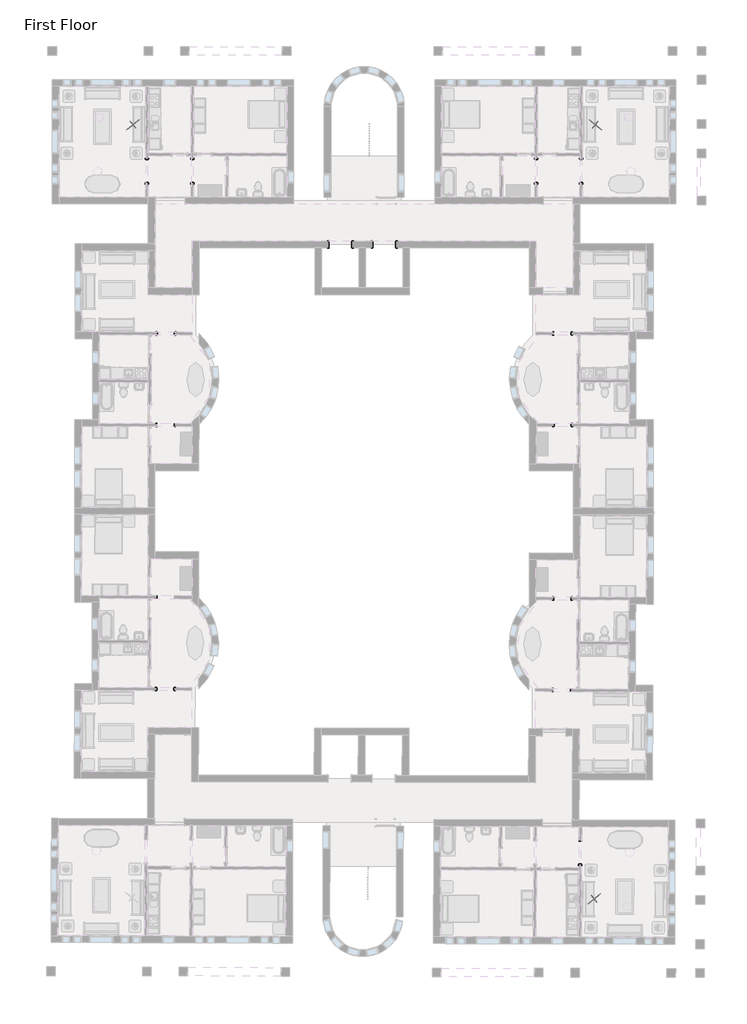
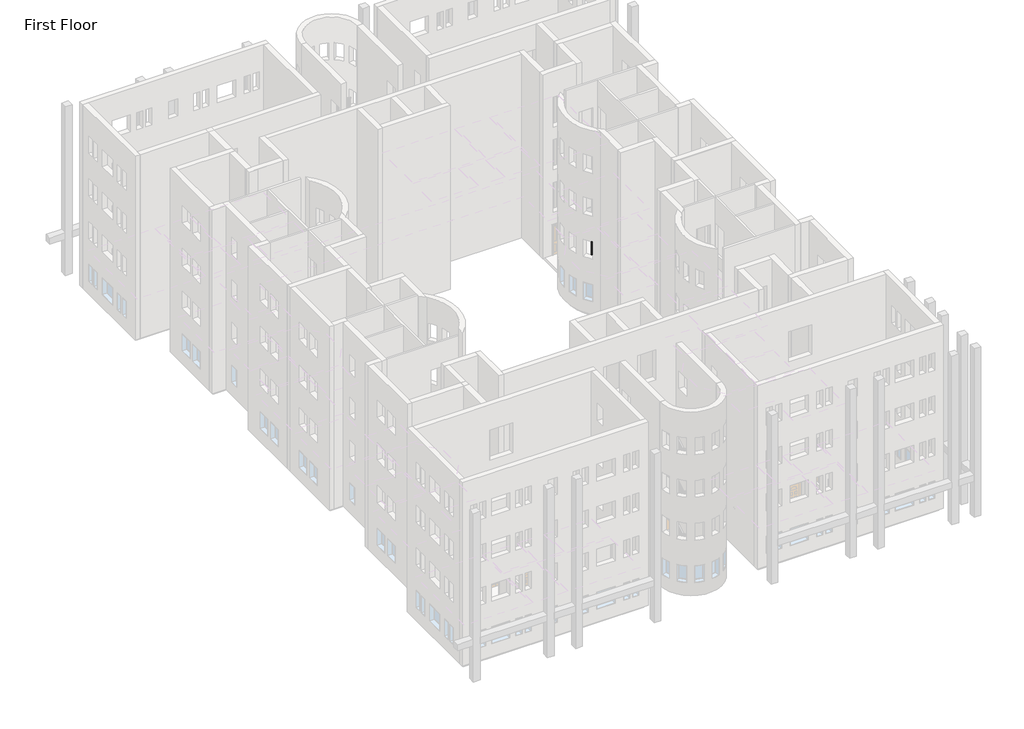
# One storey, part 23 of 23: 18 proxies.
"""IFC4 building model written with IfcOpenShell, lengths in millimetres."""

import ifcopenshell
import ifcopenshell.guid

model = None  # the IFC model being written
_history = None  # IfcOwnerHistory: only IFC2X3 demands one
_inside = {}  # id of a spatial element -> (the spatial element, [elements in it])
_under = {}  # id of a project, library or spatial element -> (it, [spatial elements below it])
_declared = {}  # id of a project -> (the project, [libraries it declares])
_typed = {}  # id of a type object -> (the type object, [elements of that type])
_made_of = {}  # id of a material, layer set ... -> (it, [elements and type objects made of it])


def new_model(schema):
    """Start an empty IFC model of exactly this schema.

    Asked for "IFC4X3", IfcOpenShell would pick the latest addendum, in which some entities
    have other attributes; the version numbers below select the first issue.
    IFC2X3 requires an IfcOwnerHistory on every rooted entity: one is made here for all.
    """
    global model, _history
    if schema == "IFC4X3":
        model = ifcopenshell.file(schema_version=(4, 3, 0, 0))
    else:
        model = ifcopenshell.file(schema=schema)
    _inside.clear()
    _under.clear()
    _declared.clear()
    _typed.clear()
    _made_of.clear()
    _history = None
    if model.schema == "IFC2X3":
        org = make("IfcOrganization", Name="unknown")
        user = make(
            "IfcPersonAndOrganization",
            ThePerson=make("IfcPerson", FamilyName="unknown"),
            TheOrganization=org,
        )
        app = make(
            "IfcApplication",
            ApplicationDeveloper=org,
            Version="unknown",
            ApplicationFullName="unknown",
            ApplicationIdentifier="unknown",
        )
        _history = make(
            "IfcOwnerHistory",
            OwningUser=user,
            OwningApplication=app,
            ChangeAction="ADDED",
            CreationDate=0,
        )
    return model


def make(cls, **values):
    """One entity of the class cls with the attributes given. An attribute that is None is left unset."""
    return model.create_entity(
        cls, **{name: value for name, value in values.items() if value is not None}
    )


def rooted(cls, **values):
    """An entity with a GlobalId (a new one), such as an element, a storey or a relation."""
    return make(cls, GlobalId=ifcopenshell.guid.new(), OwnerHistory=_history, **values)


def si_unit(unit_type, name, prefix=None):
    """IfcSIUnit, for example si_unit("LENGTHUNIT", "METRE", prefix="MILLI")."""
    return make("IfcSIUnit", UnitType=unit_type, Prefix=prefix, Name=name)


def assignment(units):
    """IfcUnitAssignment: the units of a project."""
    return None if units is None else make("IfcUnitAssignment", Units=units)


def point(xyz):
    """IfcCartesianPoint."""
    return None if xyz is None else make("IfcCartesianPoint", Coordinates=xyz)


def direction(xyz):
    """IfcDirection."""
    return None if xyz is None else make("IfcDirection", DirectionRatios=xyz)


def frame(location, z_axis=None, x_axis=None):
    """IfcAxis2Placement3D, a coordinate frame: its origin and axes. An axis left out is left unset."""
    return make(
        "IfcAxis2Placement3D",
        Location=point(location),
        Axis=direction(z_axis),
        RefDirection=direction(x_axis),
    )


def origin():
    """The frame at (0, 0, 0) with its axes left unset."""
    return frame((0.0, 0.0, 0.0))


def place(relative_to, where):
    """IfcLocalPlacement: puts the frame where relative to a parent placement (None: the world)."""
    return make(
        "IfcLocalPlacement", PlacementRelTo=relative_to, RelativePlacement=where
    )


def context(
    kind, dimensions, precision=None, world=None, true_north=None, identifier=None
):
    """IfcGeometricRepresentationContext, for example the 3D "Model" context."""
    return make(
        "IfcGeometricRepresentationContext",
        ContextIdentifier=identifier,
        ContextType=kind,
        CoordinateSpaceDimension=dimensions,
        Precision=precision,
        WorldCoordinateSystem=world,
        TrueNorth=true_north,
    )


def project(units=None, contexts=None):
    """IfcProject with its units and contexts."""
    return rooted(
        "IfcProject",
        Name="project",
        RepresentationContexts=contexts,
        UnitsInContext=assignment(units),
    )


def spatial(cls, under=None, at=None, **own):
    """A site, building, storey or space (cls), placed at a placement, below another one or the project."""
    s = rooted(cls, ObjectPlacement=at, **own)
    if under is not None:
        _under.setdefault(under.id(), (under, []))[1].append(s)
    return s


def polyline(points):
    """IfcPolyline through the points."""
    return make("IfcPolyline", Points=[point(p) for p in points])


def point_list(points):
    """IfcCartesianPointList2D or 3D."""
    cls = (
        "IfcCartesianPointList2D" if len(points[0]) == 2 else "IfcCartesianPointList3D"
    )
    return make(cls, CoordList=points)


def outline(outer, holes=None, kind="AREA"):
    """IfcArbitraryClosedProfileDef: a profile drawn as a closed curve; with holes, ...WithVoids."""
    if holes is None:
        return make("IfcArbitraryClosedProfileDef", ProfileType=kind, OuterCurve=outer)
    return make(
        "IfcArbitraryProfileDefWithVoids",
        ProfileType=kind,
        OuterCurve=outer,
        InnerCurves=holes,
    )


def extrude(swept, where, along, depth):
    """IfcExtrudedAreaSolid: the profile swept, set in the frame where, extruded along a direction by depth."""
    return make(
        "IfcExtrudedAreaSolid",
        SweptArea=swept,
        Position=where,
        ExtrudedDirection=direction(along),
        Depth=depth,
    )


def faces_of(points, faces, orient=None, outer=None):
    """IfcFace entities. A face is a list of loops; a loop is a list of indices into points, from 0.

    orient and outer hold one flag for each loop. By default every Orientation is true, the
    first loop of a face is its IfcFaceOuterBound and the others are IfcFaceBound.
    """
    made = []
    for i, loops in enumerate(faces):
        bounds = []
        for j, loop in enumerate(loops):
            is_outer = j == 0 if outer is None else outer[i][j]
            bounds.append(
                make(
                    "IfcFaceOuterBound" if is_outer else "IfcFaceBound",
                    Bound=make("IfcPolyLoop", Polygon=[points[k] for k in loop]),
                    Orientation=True if orient is None else orient[i][j],
                )
            )
        made.append(make("IfcFace", Bounds=bounds))
    return made


def faceted_brep(points, faces, orient=None, outer=None, voids=None):
    """IfcFacetedBrep: a solid bounded by flat faces; with voids (closed shells), ...WithVoids."""
    shared = [point(p) for p in points]
    hull = make("IfcClosedShell", CfsFaces=faces_of(shared, faces, orient, outer))
    if voids is None:
        return make("IfcFacetedBrep", Outer=hull)
    return make(
        "IfcFacetedBrepWithVoids",
        Outer=hull,
        Voids=[
            make(cls, CfsFaces=faces_of(shared, fs, o, b)) for cls, fs, o, b in voids
        ],
    )


def triangles(points, corners, closed=None, point_numbers=None):
    """IfcTriangulatedFaceSet: each triangle names its three corners, points numbered from 1."""
    return make(
        "IfcTriangulatedFaceSet",
        Coordinates=point_list(points),
        Closed=closed,
        CoordIndex=corners,
        PnIndex=point_numbers,
    )


def shape(context_of_items, identifier, shape_type, items):
    """IfcShapeRepresentation: the items that make up one representation, for example the "Body"."""
    return make(
        "IfcShapeRepresentation",
        ContextOfItems=context_of_items,
        RepresentationIdentifier=identifier,
        RepresentationType=shape_type,
        Items=items,
    )


def source(mapping_origin, context_of_items, identifier, shape_type, items):
    """IfcRepresentationMap: a shape defined once, which mapped items show again and again."""
    return make(
        "IfcRepresentationMap",
        MappingOrigin=mapping_origin,
        MappedRepresentation=shape(context_of_items, identifier, shape_type, items),
    )


def transform(
    local_origin,
    x_axis=None,
    y_axis=None,
    z_axis=None,
    scale=None,
    scale2=None,
    scale3=None,
    uniform=True,
):
    """IfcCartesianTransformationOperator3D, or its non-uniform kind. x_axis, y_axis, z_axis: its Axis1, 2, 3."""
    if uniform:
        return make(
            "IfcCartesianTransformationOperator3D",
            Axis1=direction(x_axis),
            Axis2=direction(y_axis),
            LocalOrigin=point(local_origin),
            Scale=scale,
            Axis3=direction(z_axis),
        )
    return make(
        "IfcCartesianTransformationOperator3DnonUniform",
        Axis1=direction(x_axis),
        Axis2=direction(y_axis),
        LocalOrigin=point(local_origin),
        Scale=scale,
        Axis3=direction(z_axis),
        Scale2=scale2,
        Scale3=scale3,
    )


def mapped(mapping_source, mapping_target):
    """IfcMappedItem: shows the shape of a source again, moved by a transform."""
    return make(
        "IfcMappedItem", MappingSource=mapping_source, MappingTarget=mapping_target
    )


def made_of(thing, what):
    """Note that an element or type object is made of a material, layer set ...; save() writes the relation."""
    if what is not None:
        _made_of.setdefault(what.id(), (what, []))[1].append(thing)
    return thing


def element(
    cls,
    number,
    at=None,
    inside=None,
    cuts=None,
    type_object=None,
    material=None,
    context=None,
    identifier="Body",
    shape_type=None,
    held_by="IfcProductDefinitionShape",
    body=None,
    shapes=None,
    **own,
):
    """One element of the class cls, such as IfcWall. Its Tag is "e" and its number.

    at: its placement. inside: the storey or other place that contains it. cuts: it is an
    opening in that element (IfcRelVoidsElement). A single representation is given by context,
    identifier, shape_type and body (its items); several are given by shapes. held_by: the class
    of the entity that holds the representations. save() writes the other relations.
    """
    e = rooted(cls, Tag="e%d" % number, ObjectPlacement=at, **own)
    if body is not None:
        shapes = [shape(context, identifier, shape_type, body)]
    if shapes is not None:
        e.Representation = make(held_by, Representations=shapes)
    if inside is not None:
        _inside.setdefault(inside.id(), (inside, []))[1].append(e)
    if cuts is not None:
        rooted(
            "IfcRelVoidsElement", RelatingBuildingElement=cuts, RelatedOpeningElement=e
        )
    if type_object is not None:
        _typed.setdefault(type_object.id(), (type_object, []))[1].append(e)
    return made_of(e, material)


def aggregate(whole, parts):
    """IfcRelAggregates: a whole, such as a stair, and the parts it consists of."""
    return rooted("IfcRelAggregates", RelatingObject=whole, RelatedObjects=parts)


def save(model, path):
    """Write the relations noted so far, then the file.

    IfcRelAggregates (storeys below a building ...), IfcRelContainedInSpatialStructure (elements
    in a storey), IfcRelDefinesByType, IfcRelAssociatesMaterial and IfcRelDeclares: one each for
    every whole, place, type object, material and project.
    """
    for whole, parts in _under.values():
        aggregate(whole, parts)
    for where, things in _inside.values():
        rooted(
            "IfcRelContainedInSpatialStructure",
            RelatedElements=things,
            RelatingStructure=where,
        )
    for kind, things in _typed.values():
        rooted("IfcRelDefinesByType", RelatedObjects=things, RelatingType=kind)
    for what, things in _made_of.values():
        rooted("IfcRelAssociatesMaterial", RelatedObjects=things, RelatingMaterial=what)
    for by, libraries in _declared.values():
        rooted("IfcRelDeclares", RelatingContext=by, RelatedDefinitions=libraries)
    model.write(path)


def m_passage_opening_cased_0915_x_2134mm_b7ef4dee(model_context):
    return source(origin(), model_context, "Body", "SolidModel", [
        extrude(outline(polyline([(0.0, -459.3386567), (2127.65, -459.3386567), (2127.65, 442.9613433), (0.0, 442.9613433), (0.0, 517.9613433), (2202.65, 517.9613433), (2202.65, -534.3386567), (0.0, -534.3386567), (0.0, -459.3386567)])), frame((0.0, -87.75, 0.0), z_axis=(0.0, 1.0, 0.0), x_axis=(0.0, 0.0, 1.0)), (0.0, 0.0, 1.0), 20.0),
        extrude(outline(polyline([(0.0, 517.9613433), (2208.05, 517.9613433), (2208.05, -534.3386567), (0.0, -534.3386567), (0.0, -459.3386567), (2127.65, -459.3386567), (2127.65, 442.9613433), (0.0, 442.9613433), (0.0, 517.9613433)])), frame((0.0, 67.75, 0.0), z_axis=(0.0, 1.0, 0.0), x_axis=(0.0, 0.0, 1.0)), (0.0, 0.0, 1.0), 20.0),
        faceted_brep([(429.3113433, 67.75, 0.0), (448.3613433, 67.75, 0.0), (448.3613433, -67.75, 0.0), (429.3113433, -67.75, 0.0), (429.3113433, 67.75, 2114.0), (448.3613433, 67.75, 2133.05), (448.3613433, -67.75, 2133.05), (429.3113433, -67.75, 2114.0), (-445.6886567, 67.75, 2114.0), (-464.7386567, 67.75, 2133.05), (-464.7386567, -67.75, 2133.05), (-445.6886567, -67.75, 2114.0), (-445.6886567, 67.75, 0.0), (-445.6886567, -67.75, 0.0), (-464.7386567, -67.75, 0.0), (-464.7386567, 67.75, 0.0)], [[[0, 1, 2, 3]], [[1, 0, 4, 5]], [[2, 1, 5, 6]], [[3, 2, 6, 7]], [[0, 3, 7, 4]], [[5, 4, 8, 9]], [[6, 5, 9, 10]], [[7, 6, 10, 11]], [[4, 7, 11, 8]], [[12, 13, 14, 15]], [[9, 8, 12, 15]], [[10, 9, 15, 14]], [[11, 10, 14, 13]], [[8, 11, 13, 12]]]),
    ])


def m_passage_opening_cased_0915_x_2134mm_5e741ba8(model_context):
    return source(origin(), model_context, "Body", "SolidModel", [
        extrude(outline(polyline([(0.0, -459.3386567), (2127.65, -459.3386567), (2127.65, 442.9613433), (0.0, 442.9613433), (0.0, 517.9613433), (2202.65, 517.9613433), (2202.65, -534.3386567), (0.0, -534.3386567), (0.0, -459.3386567)])), frame((0.0, 67.75, 0.0), z_axis=(0.0, 1.0, 0.0), x_axis=(0.0, 0.0, 1.0)), (0.0, 0.0, 1.0), 20.0),
        extrude(outline(polyline([(0.0, 517.9613433), (2208.05, 517.9613433), (2208.05, -534.3386567), (0.0, -534.3386567), (0.0, -459.3386567), (2127.65, -459.3386567), (2127.65, 442.9613433), (0.0, 442.9613433), (0.0, 517.9613433)])), frame((0.0, -87.75, 0.0), z_axis=(0.0, 1.0, 0.0), x_axis=(0.0, 0.0, 1.0)), (0.0, 0.0, 1.0), 20.0),
        faceted_brep([(429.3113433, -67.75, 0.0), (429.3113433, 67.75, 0.0), (448.3613433, 67.75, 0.0), (448.3613433, -67.75, 0.0), (448.3613433, -67.75, 2133.05), (429.3113433, -67.75, 2114.0), (448.3613433, 67.75, 2133.05), (429.3113433, 67.75, 2114.0), (-464.7386567, -67.75, 2133.05), (-445.6886567, -67.75, 2114.0), (-464.7386567, 67.75, 2133.05), (-445.6886567, 67.75, 2114.0), (-445.6886567, -67.75, 0.0), (-464.7386567, -67.75, 0.0), (-464.7386567, 67.75, 0.0), (-445.6886567, 67.75, 0.0)], [[[0, 1, 2, 3]], [[3, 4, 5, 0]], [[2, 6, 4, 3]], [[1, 7, 6, 2]], [[0, 5, 7, 1]], [[4, 8, 9, 5]], [[6, 10, 8, 4]], [[7, 11, 10, 6]], [[5, 9, 11, 7]], [[12, 13, 14, 15]], [[8, 13, 12, 9]], [[10, 14, 13, 8]], [[11, 15, 14, 10]], [[9, 12, 15, 11]]]),
    ])


def m_passage_opening_cased_1220_x_2134mm_87a8d9c2(model_context):
    return source(origin(), model_context, "Body", "SolidModel", [
        extrude(outline(polyline([(0.0, -611.8386567), (2127.65, -611.8386567), (2127.65, 595.4613433), (0.0, 595.4613433), (0.0, 670.4613433), (2202.65, 670.4613433), (2202.65, -686.8386567), (0.0, -686.8386567), (0.0, -611.8386567)])), frame((0.0, -87.75, 0.0), z_axis=(0.0, 1.0, 0.0), x_axis=(0.0, 0.0, 1.0)), (0.0, 0.0, 1.0), 20.0),
        extrude(outline(polyline([(0.0, 670.4613433), (2208.05, 670.4613433), (2208.05, -686.8386567), (0.0, -686.8386567), (0.0, -611.8386567), (2127.65, -611.8386567), (2127.65, 595.4613433), (0.0, 595.4613433), (0.0, 670.4613433)])), frame((0.0, 67.75, 0.0), z_axis=(0.0, 1.0, 0.0), x_axis=(0.0, 0.0, 1.0)), (0.0, 0.0, 1.0), 20.0),
        faceted_brep([(581.8113433, 67.75, 0.0), (600.8613433, 67.75, 0.0), (600.8613433, -67.75, 0.0), (581.8113433, -67.75, 0.0), (581.8113433, 67.75, 2114.0), (600.8613433, 67.75, 2133.05), (600.8613433, -67.75, 2133.05), (581.8113433, -67.75, 2114.0), (-598.1886567, 67.75, 2114.0), (-617.2386567, 67.75, 2133.05), (-617.2386567, -67.75, 2133.05), (-598.1886567, -67.75, 2114.0), (-598.1886567, 67.75, 0.0), (-598.1886567, -67.75, 0.0), (-617.2386567, -67.75, 0.0), (-617.2386567, 67.75, 0.0)], [[[0, 1, 2, 3]], [[1, 0, 4, 5]], [[2, 1, 5, 6]], [[3, 2, 6, 7]], [[0, 3, 7, 4]], [[5, 4, 8, 9]], [[6, 5, 9, 10]], [[7, 6, 10, 11]], [[4, 7, 11, 8]], [[12, 13, 14, 15]], [[9, 8, 12, 15]], [[10, 9, 15, 14]], [[11, 10, 14, 13]], [[8, 11, 13, 12]]]),
    ])


def m_passage_opening_cased_1220_x_2134mm_f04423fa(model_context):
    return source(origin(), model_context, "Body", "SolidModel", [
        extrude(outline(polyline([(0.0, -611.8386567), (2127.65, -611.8386567), (2127.65, 595.4613433), (0.0, 595.4613433), (0.0, 670.4613433), (2202.65, 670.4613433), (2202.65, -686.8386567), (0.0, -686.8386567), (0.0, -611.8386567)])), frame((0.0, -195.0, 0.0), z_axis=(0.0, 1.0, 0.0), x_axis=(0.0, 0.0, 1.0)), (0.0, 0.0, 1.0), 20.0),
        extrude(outline(polyline([(0.0, 670.4613433), (2208.05, 670.4613433), (2208.05, -686.8386567), (0.0, -686.8386567), (0.0, -611.8386567), (2127.65, -611.8386567), (2127.65, 595.4613433), (0.0, 595.4613433), (0.0, 670.4613433)])), frame((0.0, 175.0, 0.0), z_axis=(0.0, 1.0, 0.0), x_axis=(0.0, 0.0, 1.0)), (0.0, 0.0, 1.0), 20.0),
        faceted_brep([(581.8113433, 175.0, 0.0), (600.8613433, 175.0, 0.0), (600.8613433, -175.0, 0.0), (581.8113433, -175.0, 0.0), (581.8113433, 175.0, 2114.0), (600.8613433, 175.0, 2133.05), (600.8613433, -175.0, 2133.05), (581.8113433, -175.0, 2114.0), (-598.1886567, 175.0, 2114.0), (-617.2386567, 175.0, 2133.05), (-617.2386567, -175.0, 2133.05), (-598.1886567, -175.0, 2114.0), (-598.1886567, 175.0, 0.0), (-598.1886567, -175.0, 0.0), (-617.2386567, -175.0, 0.0), (-617.2386567, 175.0, 0.0)], [[[0, 1, 2, 3]], [[1, 0, 4, 5]], [[2, 1, 5, 6]], [[3, 2, 6, 7]], [[0, 3, 7, 4]], [[5, 4, 8, 9]], [[6, 5, 9, 10]], [[7, 6, 10, 11]], [[4, 7, 11, 8]], [[12, 13, 14, 15]], [[9, 8, 12, 15]], [[10, 9, 15, 14]], [[11, 10, 14, 13]], [[8, 11, 13, 12]]]),
    ])


def m_passage_opening_cased_1220_x_2134mm_7296280d(model_context):
    return source(origin(), model_context, "Body", "SolidModel", [
        extrude(outline(polyline([(0.0, -611.8386567), (2127.65, -611.8386567), (2127.65, 595.4613433), (0.0, 595.4613433), (0.0, 670.4613433), (2202.65, 670.4613433), (2202.65, -686.8386567), (0.0, -686.8386567), (0.0, -611.8386567)])), frame((0.0, 67.75, 0.0), z_axis=(0.0, 1.0, 0.0), x_axis=(0.0, 0.0, 1.0)), (0.0, 0.0, 1.0), 20.0),
        extrude(outline(polyline([(0.0, 670.4613433), (2208.05, 670.4613433), (2208.05, -686.8386567), (0.0, -686.8386567), (0.0, -611.8386567), (2127.65, -611.8386567), (2127.65, 595.4613433), (0.0, 595.4613433), (0.0, 670.4613433)])), frame((0.0, -87.75, 0.0), z_axis=(0.0, 1.0, 0.0), x_axis=(0.0, 0.0, 1.0)), (0.0, 0.0, 1.0), 20.0),
        faceted_brep([(581.8113433, -67.75, 0.0), (581.8113433, 67.75, 0.0), (600.8613433, 67.75, 0.0), (600.8613433, -67.75, 0.0), (600.8613433, -67.75, 2133.05), (581.8113433, -67.75, 2114.0), (600.8613433, 67.75, 2133.05), (581.8113433, 67.75, 2114.0), (-617.2386567, -67.75, 2133.05), (-598.1886567, -67.75, 2114.0), (-617.2386567, 67.75, 2133.05), (-598.1886567, 67.75, 2114.0), (-598.1886567, -67.75, 0.0), (-617.2386567, -67.75, 0.0), (-617.2386567, 67.75, 0.0), (-598.1886567, 67.75, 0.0)], [[[0, 1, 2, 3]], [[3, 4, 5, 0]], [[2, 6, 4, 3]], [[1, 7, 6, 2]], [[0, 5, 7, 1]], [[4, 8, 9, 5]], [[6, 10, 8, 4]], [[7, 11, 10, 6]], [[5, 9, 11, 7]], [[12, 13, 14, 15]], [[8, 13, 12, 9]], [[10, 14, 13, 8]], [[11, 15, 14, 10]], [[9, 12, 15, 11]]]),
    ])


def m_rpc_female_c3b5a3e1(model_context):
    return source(origin(), model_context, "Body", "Tessellation", [
        triangles([(-437.3060472, 0.0, 2.93e-05), (-425.7451249, -100.2016327, 2.93e-05), (-392.8196637, -192.220807, 2.93e-05), (-341.1660942, -273.421065, 2.93e-05), (-273.4210832, -341.1661669, 2.93e-05), (-192.2207525, -392.8196274, 2.93e-05), (-100.2015873, -425.7450522, 2.93e-05), (1.91e-05, -437.3060472, 2.93e-05), (100.2016418, -425.7451249, 2.93e-05), (192.2208252, -392.8196637, 2.93e-05), (273.4210832, -341.1660942, 2.93e-05), (341.1662395, -273.4210832, 2.93e-05), (392.8196274, -192.2207344, 2.93e-05), (425.7450522, -100.2015691, 2.93e-05), (437.3060472, 3.36e-05, 2.93e-05), (-5.73e-05, 437.3060835, 2.93e-05), (-5.5814595, 72.2469164, 69.4963894), (-5.5814595, 67.0311828, 46.0256926), (-5.5814618, 124.4040072, 19.9471473), (-5.5814618, 129.6197135, 25.1628355), (-5.5814606, 107.6002908, 62.2269748), (-5.5814595, 95.7176132, 74.7120821), (-5.5814595, -28.6037251, 4.4e-06), (-5.5814589, -39.8908927, 35.5942709), (-5.5814589, -42.4985824, 37.2668455), (-5.5814583, -45.6386024, 39.1828236), (-5.5814583, -48.9915681, 41.1595925), (-5.5814583, -52.2381586, 43.0148617), (-5.5814583, -55.0589485, 44.5657618), (-5.5814583, -57.1346439, 45.630268), (-5.5814583, -58.1458422, 46.0256972), (-5.5814595, -58.1459239, 5.3e-06), (-5.5814589, -108.9534877, 6.8e-06), (-5.5814578, -116.5758876, 29.8220396), (-5.5814544, -109.3237594, 163.617066), (-5.5814447, -45.4571863, 488.7460396), (-5.5814447, -47.7144613, 510.22398), (-5.5814447, -52.930154, 512.8317787), (-5.5814442, -176.693648, 461.1355883), (-5.5814407, -431.0103195, 441.4519423), (-5.5814407, -446.7163739, 445.0275962), (-5.5814402, -456.1588572, 455.8254473), (-5.5814334, -511.6812675, 636.0533998), (-5.5814294, -514.5206291, 776.2252218), (-5.581422, -566.7675127, 1012.4535353), (-5.5814192, -561.4620226, 1112.6385538), (-5.5814163, -522.3441341, 1198.6978357), (-5.5814163, -544.766203, 1204.597403), (-5.5814158, -561.2101121, 1214.9823069), (-5.5814152, -573.9146782, 1236.2579704), (-5.5814135, -577.4590839, 1272.8749214), (-5.5814124, -566.4222939, 1329.2833969), (-5.5814107, -535.3834182, 1409.9341427), (-5.5814101, -516.7875329, 1433.7646648), (-5.5814095, -472.5757693, 1474.3213463), (-5.5814095, -445.9834971, 1486.7823589), (-5.5814101, -415.7492961, 1491.1889214), (-5.5814107, -381.3848602, 1485.4078789), (-5.5814124, -308.1104447, 1450.1712215), (-5.5814135, -271.6909563, 1426.3745636), (-5.5814141, -259.9824413, 1410.5522736), (-5.5814152, -256.5010404, 1391.3537361), (-5.5814158, -264.1664701, 1368.2083466), (-5.5814158, -270.5527808, 1361.5173306), (-5.5814158, -307.4895524, 1345.9739479), (-5.5814158, -313.689719, 1341.0972107), (-5.5814158, -316.3235335, 1334.3062008), (-5.5814163, -314.5106718, 1321.5905525), (-5.5814175, -303.2843222, 1289.972715), (-5.5814175, -303.9330653, 1281.3193188), (-5.5814186, -344.8554039, 1227.4574902), (-5.5814192, -350.225752, 1216.9527534), (-5.5814192, -354.0102593, 1213.1380154), (-5.5814192, -360.9106739, 1211.8318451), (-5.581418, -397.1671454, 1216.9527534), (-5.5814197, -412.8142282, 1162.1877823), (-5.5814254, -300.7219422, 1007.465613), (-5.5814294, -262.9223781, 903.7025425), (-5.5814311, -261.5586532, 849.245256), (-5.5814334, -151.2455011, 828.1027239), (-5.5814334, -131.1658673, 828.382358), (-5.5814322, -146.9134072, 873.4852736), (-5.5814322, -146.8129955, 875.3236788), (-5.5814322, -136.528476, 880.5995195), (-5.5814294, 66.2908937, 1062.7625284), (-5.5814294, 72.9542315, 1068.1179428), (-5.58143, 85.3176393, 1063.7725685), (-5.5814356, 186.9121194, 916.7362673), (-5.5814362, 189.6004001, 904.0100819), (-5.5814373, 74.8547605, 802.3037899), (-5.5814385, 53.5232047, 768.5295433), (-5.5814385, 40.9526375, 757.9702314), (-5.5814385, 7.0502453, 750.1467264), (-5.5814396, -30.7395867, 681.3431499), (-5.5814396, -32.0672991, 677.1266922), (-5.5814402, -2.7970188, 673.1422697), (-5.5814413, 74.8547605, 666.6952068), (-5.5814606, 223.5024732, 113.8299342), (-5.5814606, 192.3028696, 86.4272827), (-5.5814606, 189.6004001, 82.5356507), (-5.5814629, 257.4046916, 53.8492703), (-5.5814629, 261.0574302, 50.6335736), (-5.5814635, 266.9933869, 41.9573681), (-5.5814635, 270.402463, 33.1798516), (-5.5814635, 270.8967278, 29.8373366), (-5.5814635, 270.4438667, 27.7706795), (-5.5814635, 262.2121017, 24.672413), (-5.5814623, 148.399036, 17.7234889), (-5.5814623, 129.6197135, 12.1235673), (-5.5814623, 119.228015, 0.0), (-103.2161744, -158.8626324, 3.1383159), (-93.5649829, -158.8626324, 19.2429933), (-88.6212531, -158.8626324, 24.4594445), (-82.9718341, -158.8626324, 28.4095327), (-76.7114059, -158.8626324, 30.3785123), (-108.0056803, -158.8626688, 484.1452303), (-166.5179246, -158.8626688, 527.9972775), (-183.6323596, -158.8626688, 549.7335234), (-196.1560501, -158.8626688, 575.2326937), (-202.051348, -158.8626688, 604.6170193), (-199.2806414, -158.8626688, 638.0087311), (-180.7338447, -158.8626688, 688.9253906), (-179.5105545, -158.8626688, 700.1741953), (-181.0256691, -158.8626688, 711.0286926), (-186.0299967, -158.8626688, 724.8032879), (-192.7432497, -158.8626688, 739.7140783), (-208.556347, -158.8626688, 771.7153954), (-227.9670263, -158.8626688, 820.5585623), (-215.5927998, -158.8627051, 1139.719677), (-204.4963295, -158.8627051, 1164.795472), (-195.7042972, -158.8627051, 1170.2251551), (-178.3999392, -158.8627051, 1176.5906822), (-156.0961225, -158.8627051, 1183.4371393), (-132.3056233, -158.8627051, 1190.3085222), (-110.5413813, -158.8627051, 1196.7500622), (-94.3161544, -158.8627051, 1202.3061911), (-87.1428368, -158.8627051, 1206.5211954), (-121.0449553, -158.8627051, 1339.5217255), (-105.9598841, -158.8627233, 1402.4776211), (-72.2006802, -158.8627233, 1459.3937691), (-51.1399244, -158.8627233, 1480.6096252), (-28.7965753, -158.8627233, 1494.3423626), (-6.2993163, -158.8627233, 1498.6009689), (28.3786116, -158.8627233, 1491.3014145), (62.9444138, -158.8627233, 1473.3404469), (92.2084978, -158.8627233, 1445.5319698), (103.2306357, -158.8627233, 1428.1888424), (112.1217082, -158.8627233, 1400.9906479), (114.2135863, -158.8627051, 1329.2272957), (96.1615087, -158.8627051, 1258.9099308), (79.8726138, -158.8627051, 1233.5191841), (58.8970909, -158.8627051, 1219.5604431), (58.8970909, -158.8627051, 1209.1289577), (105.4403209, -158.8627051, 1177.1577988), (186.6819918, -158.8627051, 1146.5404089), (190.9102947, -158.8627051, 1130.2535397), (197.4606216, -158.8627051, 874.561952), (217.1153449, -158.8627051, 870.6129925), (219.4355885, -158.8627051, 869.5271576), (221.3550207, -158.8627051, 866.9867603), (227.9670444, -158.8626688, 839.7671282), (217.976248, -158.8626688, 726.675848), (216.7788284, -158.8626688, 725.5374001), (198.4189752, -158.8626688, 721.3537165), (197.1134226, -158.8626688, 721.4601053), (188.2935758, -158.8626688, 736.0854481), (176.2505791, -158.8626688, 750.1465811), (172.5435924, -158.8626688, 744.3788372), (169.4577161, -158.8626688, 737.624235), (166.7655839, -158.8626688, 730.2871828), (164.2398296, -158.8626688, 722.7722345), (161.6531779, -158.8626688, 715.4839439), (158.7782626, -158.8626688, 708.8267195), (155.3877173, -158.8626688, 703.2051149), (164.598892, -158.8626688, 582.3868355), (159.7289131, -158.8626688, 557.9940293), (150.1720292, -158.8626688, 536.3024028), (143.4522449, -158.8626688, 528.6089407), (105.4337806, -158.8626688, 509.5450607), (96.8766176, -158.8626688, 503.2558007), (90.1913244, -158.8626688, 494.5766793), (88.7456459, -158.8626324, 49.410397), (105.4366693, -158.8626324, 7.4e-05), (-104.3910663, -158.8626324, 7.4e-05)], [[15, 16, 1], [14, 15, 1], [14, 1, 2], [13, 14, 2], [13, 2, 3], [13, 3, 4], [12, 13, 4], [11, 12, 4], [11, 4, 5], [11, 5, 6], [11, 6, 7], [11, 7, 8], [11, 8, 9], [11, 9, 10], [23, 17, 18], [110, 23, 18], [110, 18, 19], [109, 110, 19], [17, 23, 24], [31, 32, 33], [31, 33, 34], [109, 19, 20], [108, 109, 20], [88, 89, 90], [82, 83, 84], [85, 86, 87], [105, 106, 107], [104, 105, 107], [103, 104, 107], [102, 103, 107], [101, 102, 107], [100, 101, 107], [100, 107, 108], [100, 108, 20], [100, 20, 21], [100, 21, 22], [87, 88, 90], [85, 87, 90], [84, 85, 90], [84, 90, 91], [84, 91, 92], [84, 92, 93], [82, 84, 93], [81, 82, 93], [81, 93, 94], [80, 81, 94], [80, 94, 95], [99, 100, 22], [17, 24, 25], [17, 25, 26], [31, 34, 35], [30, 31, 35], [17, 26, 27], [17, 27, 28], [17, 28, 29], [29, 30, 35], [17, 29, 35], [22, 17, 35], [99, 22, 35], [98, 99, 35], [97, 98, 35], [97, 35, 36], [97, 36, 37], [96, 97, 37], [96, 37, 38], [95, 96, 38], [80, 95, 38], [80, 38, 39], [79, 80, 39], [79, 39, 40], [79, 40, 41], [79, 41, 42], [79, 42, 43], [79, 43, 44], [78, 79, 44], [77, 78, 44], [77, 44, 45], [77, 45, 46], [76, 77, 46], [76, 46, 47], [75, 76, 47], [72, 73, 74], [71, 72, 74], [61, 62, 63], [60, 61, 63], [60, 63, 64], [59, 60, 64], [59, 64, 65], [59, 65, 66], [58, 59, 66], [57, 58, 66], [56, 57, 66], [55, 56, 66], [54, 55, 66], [54, 66, 67], [53, 54, 67], [52, 53, 67], [52, 67, 68], [51, 52, 68], [50, 51, 68], [49, 50, 68], [48, 49, 68], [47, 48, 68], [75, 47, 68], [74, 75, 68], [71, 74, 68], [70, 71, 68], [69, 70, 68], [183, 184, 111], [183, 111, 112], [183, 112, 113], [183, 113, 114], [183, 114, 115], [182, 183, 115], [181, 182, 115], [181, 115, 116], [154, 155, 156], [164, 165, 166], [180, 181, 116], [163, 164, 166], [162, 163, 166], [162, 166, 167], [161, 162, 167], [160, 161, 167], [159, 160, 167], [158, 159, 167], [157, 158, 167], [180, 116, 117], [180, 117, 118], [180, 118, 119], [180, 119, 120], [180, 120, 121], [180, 121, 122], [179, 180, 122], [179, 122, 123], [178, 179, 123], [177, 178, 123], [176, 177, 123], [175, 176, 123], [174, 175, 123], [174, 123, 124], [174, 124, 125], [173, 174, 125], [172, 173, 125], [171, 172, 125], [170, 171, 125], [169, 170, 125], [169, 125, 126], [168, 169, 126], [168, 126, 127], [167, 168, 127], [157, 167, 127], [157, 127, 128], [156, 157, 128], [154, 156, 128], [153, 154, 128], [153, 128, 129], [153, 129, 130], [153, 130, 131], [153, 131, 132], [153, 132, 133], [153, 133, 134], [153, 134, 135], [153, 135, 136], [153, 136, 137], [152, 153, 137], [151, 152, 137], [150, 151, 137], [149, 150, 137], [149, 137, 138], [149, 138, 139], [148, 149, 139], [147, 148, 139], [146, 147, 139], [146, 139, 140], [145, 146, 140], [145, 140, 141], [144, 145, 141], [144, 141, 142], [144, 142, 143]], closed=False),
    ])


def m_rpc_female_9d515f38(model_context):
    return source(origin(), model_context, "Body", "Tessellation", [
        triangles([(-437.3060472, 0.0, 2.93e-05), (-425.7451249, 100.2016327, 2.93e-05), (-392.8196637, 192.220807, 2.93e-05), (-341.1660942, 273.421065, 2.93e-05), (-273.4210832, 341.1661669, 2.93e-05), (-192.2207525, 392.8196274, 2.93e-05), (-100.2015873, 425.7450522, 2.93e-05), (1.91e-05, 437.3060472, 2.93e-05), (100.2016418, 425.7451249, 2.93e-05), (192.2208252, 392.8196637, 2.93e-05), (273.4210832, 341.1660942, 2.93e-05), (341.1662395, 273.4210832, 2.93e-05), (392.8196274, 192.2207344, 2.93e-05), (425.7450522, 100.2015691, 2.93e-05), (437.3060472, -3.36e-05, 2.93e-05), (-5.73e-05, -437.3060835, 2.93e-05), (-5.5814595, -72.2469164, 69.4963894), (-5.5814595, -67.0311828, 46.0256926), (-5.5814618, -124.4040072, 19.9471473), (-5.5814618, -129.6197135, 25.1628355), (-5.5814606, -107.6002908, 62.2269748), (-5.5814595, -95.7176132, 74.7120821), (-5.5814595, 28.6037251, 4.4e-06), (-5.5814589, 39.8908927, 35.5942709), (-5.5814589, 42.4985824, 37.2668455), (-5.5814583, 45.6386024, 39.1828236), (-5.5814583, 48.9915681, 41.1595925), (-5.5814583, 52.2381586, 43.0148617), (-5.5814583, 55.0589485, 44.5657618), (-5.5814583, 57.1346439, 45.630268), (-5.5814583, 58.1458422, 46.0256972), (-5.5814595, 58.1459239, 5.3e-06), (-5.5814589, 108.9534877, 6.8e-06), (-5.5814578, 116.5758876, 29.8220396), (-5.5814544, 109.3237594, 163.617066), (-5.5814447, 45.4571863, 488.7460396), (-5.5814447, 47.7144613, 510.22398), (-5.5814447, 52.930154, 512.8317787), (-5.5814442, 176.693648, 461.1355883), (-5.5814407, 431.0103195, 441.4519423), (-5.5814407, 446.7163739, 445.0275962), (-5.5814402, 456.1588572, 455.8254473), (-5.5814334, 511.6812675, 636.0533998), (-5.5814294, 514.5206291, 776.2252218), (-5.581422, 566.7675127, 1012.4535353), (-5.5814192, 561.4620226, 1112.6385538), (-5.5814163, 522.3441341, 1198.6978357), (-5.5814163, 544.766203, 1204.597403), (-5.5814158, 561.2101121, 1214.9823069), (-5.5814152, 573.9146782, 1236.2579704), (-5.5814135, 577.4590839, 1272.8749214), (-5.5814124, 566.4222939, 1329.2833969), (-5.5814107, 535.3834182, 1409.9341427), (-5.5814101, 516.7875329, 1433.7646648), (-5.5814095, 472.5757693, 1474.3213463), (-5.5814095, 445.9834971, 1486.7823589), (-5.5814101, 415.7492961, 1491.1889214), (-5.5814107, 381.3848602, 1485.4078789), (-5.5814124, 308.1104447, 1450.1712215), (-5.5814135, 271.6909563, 1426.3745636), (-5.5814141, 259.9824413, 1410.5522736), (-5.5814152, 256.5010404, 1391.3537361), (-5.5814158, 264.1664701, 1368.2083466), (-5.5814158, 270.5527808, 1361.5173306), (-5.5814158, 307.4895524, 1345.9739479), (-5.5814158, 313.689719, 1341.0972107), (-5.5814158, 316.3235335, 1334.3062008), (-5.5814163, 314.5106718, 1321.5905525), (-5.5814175, 303.2843222, 1289.972715), (-5.5814175, 303.9330653, 1281.3193188), (-5.5814186, 344.8554039, 1227.4574902), (-5.5814192, 350.225752, 1216.9527534), (-5.5814192, 354.0102593, 1213.1380154), (-5.5814192, 360.9106739, 1211.8318451), (-5.581418, 397.1671454, 1216.9527534), (-5.5814197, 412.8142282, 1162.1877823), (-5.5814254, 300.7219422, 1007.465613), (-5.5814294, 262.9223781, 903.7025425), (-5.5814311, 261.5586532, 849.245256), (-5.5814334, 151.2455011, 828.1027239), (-5.5814334, 131.1658673, 828.382358), (-5.5814322, 146.9134072, 873.4852736), (-5.5814322, 146.8129955, 875.3236788), (-5.5814322, 136.528476, 880.5995195), (-5.5814294, -66.2908937, 1062.7625284), (-5.5814294, -72.9542315, 1068.1179428), (-5.58143, -85.3176393, 1063.7725685), (-5.5814356, -186.9121194, 916.7362673), (-5.5814362, -189.6004001, 904.0100819), (-5.5814373, -74.8547605, 802.3037899), (-5.5814385, -53.5232047, 768.5295433), (-5.5814385, -40.9526375, 757.9702314), (-5.5814385, -7.0502453, 750.1467264), (-5.5814396, 30.7395867, 681.3431499), (-5.5814396, 32.0672991, 677.1266922), (-5.5814402, 2.7970188, 673.1422697), (-5.5814413, -74.8547605, 666.6952068), (-5.5814606, -223.5024732, 113.8299342), (-5.5814606, -192.3028696, 86.4272827), (-5.5814606, -189.6004001, 82.5356507), (-5.5814629, -257.4046916, 53.8492703), (-5.5814629, -261.0574302, 50.6335736), (-5.5814635, -266.9933869, 41.9573681), (-5.5814635, -270.402463, 33.1798516), (-5.5814635, -270.8967278, 29.8373366), (-5.5814635, -270.4438667, 27.7706795), (-5.5814635, -262.2121017, 24.672413), (-5.5814623, -148.399036, 17.7234889), (-5.5814623, -129.6197135, 12.1235673), (-5.5814623, -119.228015, 0.0), (-103.2161744, 158.8626324, 3.1383159), (-93.5649829, 158.8626324, 19.2429933), (-88.6212531, 158.8626324, 24.4594445), (-82.9718341, 158.8626324, 28.4095327), (-76.7114059, 158.8626324, 30.3785123), (-108.0056803, 158.8626688, 484.1452303), (-166.5179246, 158.8626688, 527.9972775), (-183.6323596, 158.8626688, 549.7335234), (-196.1560501, 158.8626688, 575.2326937), (-202.051348, 158.8626688, 604.6170193), (-199.2806414, 158.8626688, 638.0087311), (-180.7338447, 158.8626688, 688.9253906), (-179.5105545, 158.8626688, 700.1741953), (-181.0256691, 158.8626688, 711.0286926), (-186.0299967, 158.8626688, 724.8032879), (-192.7432497, 158.8626688, 739.7140783), (-208.556347, 158.8626688, 771.7153954), (-227.9670263, 158.8626688, 820.5585623), (-215.5927998, 158.8627051, 1139.719677), (-204.4963295, 158.8627051, 1164.795472), (-195.7042972, 158.8627051, 1170.2251551), (-178.3999392, 158.8627051, 1176.5906822), (-156.0961225, 158.8627051, 1183.4371393), (-132.3056233, 158.8627051, 1190.3085222), (-110.5413813, 158.8627051, 1196.7500622), (-94.3161544, 158.8627051, 1202.3061911), (-87.1428368, 158.8627051, 1206.5211954), (-121.0449553, 158.8627051, 1339.5217255), (-105.9598841, 158.8627233, 1402.4776211), (-72.2006802, 158.8627233, 1459.3937691), (-51.1399244, 158.8627233, 1480.6096252), (-28.7965753, 158.8627233, 1494.3423626), (-6.2993163, 158.8627233, 1498.6009689), (28.3786116, 158.8627233, 1491.3014145), (62.9444138, 158.8627233, 1473.3404469), (92.2084978, 158.8627233, 1445.5319698), (103.2306357, 158.8627233, 1428.1888424), (112.1217082, 158.8627233, 1400.9906479), (114.2135863, 158.8627051, 1329.2272957), (96.1615087, 158.8627051, 1258.9099308), (79.8726138, 158.8627051, 1233.5191841), (58.8970909, 158.8627051, 1219.5604431), (58.8970909, 158.8627051, 1209.1289577), (105.4403209, 158.8627051, 1177.1577988), (186.6819918, 158.8627051, 1146.5404089), (190.9102947, 158.8627051, 1130.2535397), (197.4606216, 158.8627051, 874.561952), (217.1153449, 158.8627051, 870.6129925), (219.4355885, 158.8627051, 869.5271576), (221.3550207, 158.8627051, 866.9867603), (227.9670444, 158.8626688, 839.7671282), (217.976248, 158.8626688, 726.675848), (216.7788284, 158.8626688, 725.5374001), (198.4189752, 158.8626688, 721.3537165), (197.1134226, 158.8626688, 721.4601053), (188.2935758, 158.8626688, 736.0854481), (176.2505791, 158.8626688, 750.1465811), (172.5435924, 158.8626688, 744.3788372), (169.4577161, 158.8626688, 737.624235), (166.7655839, 158.8626688, 730.2871828), (164.2398296, 158.8626688, 722.7722345), (161.6531779, 158.8626688, 715.4839439), (158.7782626, 158.8626688, 708.8267195), (155.3877173, 158.8626688, 703.2051149), (164.598892, 158.8626688, 582.3868355), (159.7289131, 158.8626688, 557.9940293), (150.1720292, 158.8626688, 536.3024028), (143.4522449, 158.8626688, 528.6089407), (105.4337806, 158.8626688, 509.5450607), (96.8766176, 158.8626688, 503.2558007), (90.1913244, 158.8626688, 494.5766793), (88.7456459, 158.8626324, 49.410397), (105.4366693, 158.8626324, 7.4e-05), (-104.3910663, 158.8626324, 7.4e-05)], [[16, 15, 1], [15, 14, 1], [1, 14, 2], [14, 13, 2], [2, 13, 3], [3, 13, 4], [13, 12, 4], [12, 11, 4], [4, 11, 5], [5, 11, 6], [6, 11, 7], [7, 11, 8], [8, 11, 9], [9, 11, 10], [17, 23, 18], [23, 110, 18], [18, 110, 19], [110, 109, 19], [23, 17, 24], [32, 31, 33], [33, 31, 34], [19, 109, 20], [109, 108, 20], [89, 88, 90], [83, 82, 84], [86, 85, 87], [106, 105, 107], [105, 104, 107], [104, 103, 107], [103, 102, 107], [102, 101, 107], [101, 100, 107], [107, 100, 108], [108, 100, 20], [20, 100, 21], [21, 100, 22], [88, 87, 90], [87, 85, 90], [85, 84, 90], [90, 84, 91], [91, 84, 92], [92, 84, 93], [84, 82, 93], [82, 81, 93], [93, 81, 94], [81, 80, 94], [94, 80, 95], [100, 99, 22], [24, 17, 25], [25, 17, 26], [34, 31, 35], [31, 30, 35], [26, 17, 27], [27, 17, 28], [28, 17, 29], [30, 29, 35], [29, 17, 35], [17, 22, 35], [22, 99, 35], [99, 98, 35], [98, 97, 35], [35, 97, 36], [36, 97, 37], [97, 96, 37], [37, 96, 38], [96, 95, 38], [95, 80, 38], [38, 80, 39], [80, 79, 39], [39, 79, 40], [40, 79, 41], [41, 79, 42], [42, 79, 43], [43, 79, 44], [79, 78, 44], [78, 77, 44], [44, 77, 45], [45, 77, 46], [77, 76, 46], [46, 76, 47], [76, 75, 47], [73, 72, 74], [72, 71, 74], [62, 61, 63], [61, 60, 63], [63, 60, 64], [60, 59, 64], [64, 59, 65], [65, 59, 66], [59, 58, 66], [58, 57, 66], [57, 56, 66], [56, 55, 66], [55, 54, 66], [66, 54, 67], [54, 53, 67], [53, 52, 67], [67, 52, 68], [52, 51, 68], [51, 50, 68], [50, 49, 68], [49, 48, 68], [48, 47, 68], [47, 75, 68], [75, 74, 68], [74, 71, 68], [71, 70, 68], [70, 69, 68], [184, 183, 111], [111, 183, 112], [112, 183, 113], [113, 183, 114], [114, 183, 115], [183, 182, 115], [182, 181, 115], [115, 181, 116], [155, 154, 156], [165, 164, 166], [181, 180, 116], [164, 163, 166], [163, 162, 166], [166, 162, 167], [162, 161, 167], [161, 160, 167], [160, 159, 167], [159, 158, 167], [158, 157, 167], [116, 180, 117], [117, 180, 118], [118, 180, 119], [119, 180, 120], [120, 180, 121], [121, 180, 122], [180, 179, 122], [122, 179, 123], [179, 178, 123], [178, 177, 123], [177, 176, 123], [176, 175, 123], [175, 174, 123], [123, 174, 124], [124, 174, 125], [174, 173, 125], [173, 172, 125], [172, 171, 125], [171, 170, 125], [170, 169, 125], [125, 169, 126], [169, 168, 126], [126, 168, 127], [168, 167, 127], [167, 157, 127], [127, 157, 128], [157, 156, 128], [156, 154, 128], [154, 153, 128], [128, 153, 129], [129, 153, 130], [130, 153, 131], [131, 153, 132], [132, 153, 133], [133, 153, 134], [134, 153, 135], [135, 153, 136], [136, 153, 137], [153, 152, 137], [152, 151, 137], [151, 150, 137], [150, 149, 137], [137, 149, 138], [138, 149, 139], [149, 148, 139], [148, 147, 139], [147, 146, 139], [139, 146, 140], [146, 145, 140], [140, 145, 141], [145, 144, 141], [141, 144, 142], [142, 144, 143]], closed=False),
    ])


model = new_model("IFC4")

# Units and contexts
model_context = context("Model", 3, world=origin())
ifc_project = project(units=[si_unit("LENGTHUNIT", "METRE", prefix="MILLI")], contexts=[model_context])

# Site, building, storey
site = spatial("IfcSite", under=ifc_project)
building = spatial("IfcBuilding", under=site)
storey = spatial("IfcBuildingStorey", under=building, Name="First Floor", Elevation=0.0)

# Proxies
placement = place(None, origin())
m_passage_opening_cased_0915_x_2134mm_shape = m_passage_opening_cased_0915_x_2134mm_b7ef4dee(model_context)
element("IfcBuildingElementProxy", 1, Name="M_Passage Opening-Cased : 0915 x 2134mm", ObjectType="M_Passage Opening-Cased : 0915 x 2134mm", at=placement, inside=storey, context=model_context, shape_type="MappedRepresentation", body=[
    mapped(m_passage_opening_cased_0915_x_2134mm_shape, transform((-29263.1209408, -10426.1057324, 0.0), x_axis=(0.9999989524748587, -0.0014474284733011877, 0.0), y_axis=(0.0014474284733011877, 0.9999989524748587, 0.0), z_axis=(0.0, 0.0, 1.0))),
])
element("IfcBuildingElementProxy", 2, Name="M_Passage Opening-Cased : 0915 x 2134mm", ObjectType="M_Passage Opening-Cased : 0915 x 2134mm", at=placement, inside=storey, context=model_context, shape_type="MappedRepresentation", body=[
    mapped(m_passage_opening_cased_0915_x_2134mm_shape, transform((-29270.0280695, -15198.1007336, 0.0), x_axis=(0.9999989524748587, -0.0014474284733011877, 0.0), y_axis=(0.0014474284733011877, 0.9999989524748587, 0.0), z_axis=(0.0, 0.0, 1.0))),
])
element("IfcBuildingElementProxy", 3, Name="M_Passage Opening-Cased : 0915 x 2134mm", ObjectType="M_Passage Opening-Cased : 0915 x 2134mm", at=placement, inside=storey, context=model_context, shape_type="MappedRepresentation", body=[
    mapped(m_passage_opening_cased_0915_x_2134mm_shape, transform((-8677.908724, -28973.7552644, 0.0), x_axis=(-0.9999905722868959, 0.004342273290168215, 0.0), y_axis=(-0.004342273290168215, -0.9999905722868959, 0.0), z_axis=(0.0, 0.0, 1.0))),
])
element("IfcBuildingElementProxy", 4, Name="M_Passage Opening-Cased : 0915 x 2134mm", ObjectType="M_Passage Opening-Cased : 0915 x 2134mm", at=placement, inside=storey, context=model_context, shape_type="MappedRepresentation", body=[
    mapped(m_passage_opening_cased_0915_x_2134mm_shape, transform((-8657.1873959, -24201.8002534, 0.0), x_axis=(-0.9999905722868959, 0.004342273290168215, 0.0), y_axis=(-0.004342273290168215, -0.9999905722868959, 0.0), z_axis=(0.0, 0.0, 1.0))),
])
m_passage_opening_cased_0915_x_2134mm_2_shape = m_passage_opening_cased_0915_x_2134mm_5e741ba8(model_context)
element("IfcBuildingElementProxy", 5, Name="M_Passage Opening-Cased : 0915 x 2134mm", ObjectType="M_Passage Opening-Cased : 0915 x 2134mm", at=placement, inside=storey, context=model_context, shape_type="MappedRepresentation", body=[
    mapped(m_passage_opening_cased_0915_x_2134mm_2_shape, transform((-8651.0622999, -10426.1057324, 0.0), x_axis=(-0.9999989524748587, -0.0014474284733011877, 0.0), y_axis=(0.0014474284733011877, -0.9999989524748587, 0.0), z_axis=(0.0, 0.0, 1.0))),
])
element("IfcBuildingElementProxy", 6, Name="M_Passage Opening-Cased : 0915 x 2134mm", ObjectType="M_Passage Opening-Cased : 0915 x 2134mm", at=placement, inside=storey, context=model_context, shape_type="MappedRepresentation", body=[
    mapped(m_passage_opening_cased_0915_x_2134mm_2_shape, transform((-8644.1551712, -15198.1007336, 0.0), x_axis=(-0.9999989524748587, -0.0014474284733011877, 0.0), y_axis=(0.0014474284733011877, -0.9999989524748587, 0.0), z_axis=(0.0, 0.0, 1.0))),
])
element("IfcBuildingElementProxy", 7, Name="M_Passage Opening-Cased : 0915 x 2134mm", ObjectType="M_Passage Opening-Cased : 0915 x 2134mm", at=placement, inside=storey, context=model_context, shape_type="MappedRepresentation", body=[
    mapped(m_passage_opening_cased_0915_x_2134mm_2_shape, transform((-29289.8809984, -28914.0863657, 0.0), x_axis=(0.9999989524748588, -0.0014474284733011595, 0.0), y_axis=(0.0014474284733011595, 0.9999989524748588, 0.0), z_axis=(0.0, 0.0, 1.0))),
])
element("IfcBuildingElementProxy", 8, Name="M_Passage Opening-Cased : 0915 x 2134mm", ObjectType="M_Passage Opening-Cased : 0915 x 2134mm", at=placement, inside=storey, context=model_context, shape_type="MappedRepresentation", body=[
    mapped(m_passage_opening_cased_0915_x_2134mm_2_shape, transform((-29282.9738697, -24142.0913645, 0.0), x_axis=(0.9999989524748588, -0.0014474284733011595, 0.0), y_axis=(0.0014474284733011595, 0.9999989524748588, 0.0), z_axis=(0.0, 0.0, 1.0))),
])
m_passage_opening_cased_1220_x_2134mm_shape = m_passage_opening_cased_1220_x_2134mm_87a8d9c2(model_context)
element("IfcBuildingElementProxy", 9, Name="M_Passage Opening-Cased : 1220 x 2134mm", ObjectType="M_Passage Opening-Cased : 1220 x 2134mm", at=placement, inside=storey, context=model_context, shape_type="MappedRepresentation", body=[
    mapped(m_passage_opening_cased_1220_x_2134mm_shape, transform((-7665.3416203, -1982.6925047, 0.0), x_axis=(0.0, 1.0, 0.0), y_axis=(-1.0, 0.0, 0.0), z_axis=(0.0, 0.0, 1.0))),
])
element("IfcBuildingElementProxy", 10, Name="M_Passage Opening-Cased : 1220 x 2134mm", ObjectType="M_Passage Opening-Cased : 1220 x 2134mm", at=placement, inside=storey, context=model_context, shape_type="MappedRepresentation", body=[
    mapped(m_passage_opening_cased_1220_x_2134mm_shape, transform((-10019.0916203, -1999.0698181, 0.0), x_axis=(0.0, -1.0, 0.0), y_axis=(1.0, 0.0, 0.0), z_axis=(0.0, 0.0, 1.0))),
])
m_passage_opening_cased_1220_x_2134mm_2_shape = m_passage_opening_cased_1220_x_2134mm_f04423fa(model_context)
element("IfcBuildingElementProxy", 11, Name="M_Passage Opening-Cased : 1220 x 2134mm", ObjectType="M_Passage Opening-Cased : 1220 x 2134mm", at=placement, inside=storey, context=model_context, shape_type="MappedRepresentation", body=[
    mapped(m_passage_opening_cased_1220_x_2134mm_2_shape, transform((-17916.280277, -5800.8811614, 0.0), x_axis=(-1.0, 0.0, 0.0), y_axis=(0.0, -1.0, 0.0), z_axis=(0.0, 0.0, 1.0))),
])
element("IfcBuildingElementProxy", 12, Name="M_Passage Opening-Cased : 1220 x 2134mm", ObjectType="M_Passage Opening-Cased : 1220 x 2134mm", at=placement, inside=storey, context=model_context, shape_type="MappedRepresentation", body=[
    mapped(m_passage_opening_cased_1220_x_2134mm_2_shape, transform((-20185.9029636, -5800.8811614, 0.0), x_axis=(1.0, 0.0, 0.0), y_axis=(0.0, 1.0, 0.0), z_axis=(0.0, 0.0, 1.0))),
])
m_passage_opening_cased_1220_x_2134mm_3_shape = m_passage_opening_cased_1220_x_2134mm_7296280d(model_context)
element("IfcBuildingElementProxy", 13, Name="M_Passage Opening-Cased : 1220 x 2134mm", ObjectType="M_Passage Opening-Cased : 1220 x 2134mm", at=placement, inside=storey, context=model_context, shape_type="MappedRepresentation", body=[
    mapped(m_passage_opening_cased_1220_x_2134mm_3_shape, transform((-30248.8416203, -1982.6925047, 0.0), x_axis=(0.0, 1.0, 0.0), y_axis=(-1.0, 0.0, 0.0), z_axis=(0.0, 0.0, 1.0))),
])
element("IfcBuildingElementProxy", 14, Name="M_Passage Opening-Cased : 1220 x 2134mm", ObjectType="M_Passage Opening-Cased : 1220 x 2134mm", at=placement, inside=storey, context=model_context, shape_type="MappedRepresentation", body=[
    mapped(m_passage_opening_cased_1220_x_2134mm_3_shape, transform((-27895.0916203, -1999.0698181, 0.0), x_axis=(0.0, -1.0, 0.0), y_axis=(1.0, 0.0, 0.0), z_axis=(0.0, 0.0, 1.0))),
])
element("IfcBuildingElementProxy", 15, Name="M_Passage Opening-Cased : 1220 x 2134mm", ObjectType="M_Passage Opening-Cased : 1220 x 2134mm", at=placement, inside=storey, context=model_context, shape_type="MappedRepresentation", body=[
    mapped(m_passage_opening_cased_1220_x_2134mm_3_shape, transform((-7716.6346226, -37419.9866307, 0.0), x_axis=(-0.0028948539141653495, -0.9999958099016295, 0.0), y_axis=(0.9999958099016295, -0.0028948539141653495, 0.0), z_axis=(0.0, 0.0, 1.0))),
])
m_rpc_female_shape = m_rpc_female_c3b5a3e1(model_context)
element("IfcBuildingElementProxy", 16, Name="M_RPC Female : Cynthia", ObjectType="M_RPC Female : Cynthia", at=placement, inside=storey, context=model_context, shape_type="MappedRepresentation", body=[
    mapped(m_rpc_female_shape, transform((-6817.8815242, 314.0517006, 0.0), x_axis=(-0.6293203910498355, -0.7771459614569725, 0.0), y_axis=(0.7771459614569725, -0.6293203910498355, 0.0), z_axis=(0.0, 0.0, 1.0))),
])
m_rpc_female_2_shape = m_rpc_female_9d515f38(model_context)
element("IfcBuildingElementProxy", 17, Name="M_RPC Female : Cynthia", ObjectType="M_RPC Female : Cynthia", at=placement, inside=storey, context=model_context, shape_type="MappedRepresentation", body=[
    mapped(m_rpc_female_2_shape, transform((-31096.3017165, 314.0517006, 0.0), x_axis=(0.6293203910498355, -0.7771459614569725, 0.0), y_axis=(0.7771459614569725, 0.6293203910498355, 0.0), z_axis=(0.0, 0.0, 1.0))),
])
element("IfcBuildingElementProxy", 18, Name="M_RPC Female : Cynthia", ObjectType="M_RPC Female : Cynthia", at=placement, inside=storey, context=model_context, shape_type="MappedRepresentation", body=[
    mapped(m_rpc_female_2_shape, transform((-6875.8268164, -39719.1744856, 0.0), x_axis=(-0.6270680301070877, 0.7789644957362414, 0.0), y_axis=(-0.7789644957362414, -0.6270680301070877, 0.0), z_axis=(0.0, 0.0, 1.0))),
])

save(model, "model.ifc")
